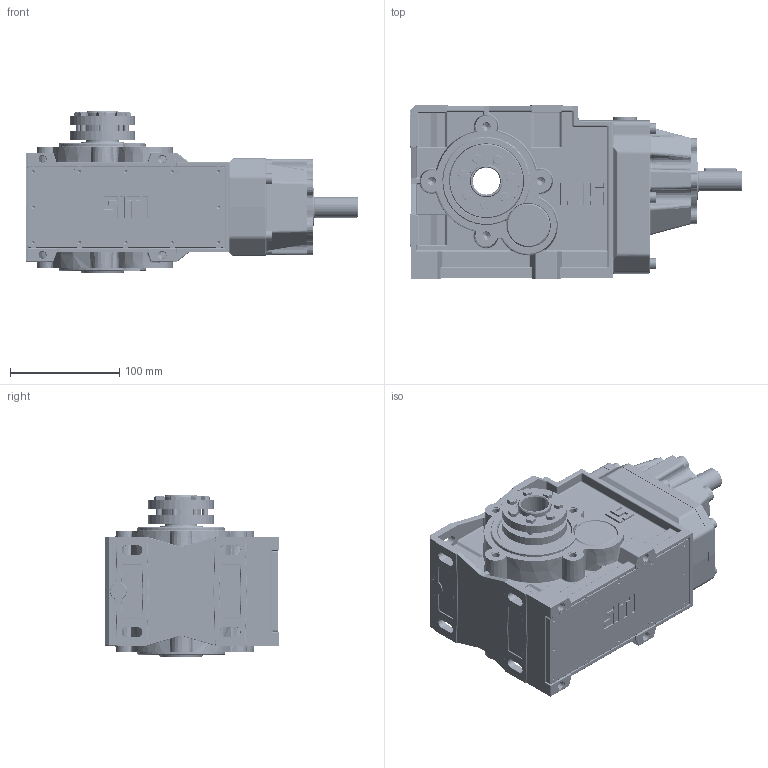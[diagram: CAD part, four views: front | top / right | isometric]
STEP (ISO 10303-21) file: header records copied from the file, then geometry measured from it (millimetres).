
FILE_DESCRIPTION((''),'2;1');
FILE_NAME('C:\Users\m.piscopiello.SITIRIDUTTORI\Desktop\3D x SITO\BH 56\BH_56 CC-A.stp','2013-04-19T10:29:09',('m.piscopiello'),(''),'Autodesk Inventor 2012','Autodesk Inventor 2012','');
FILE_SCHEMA(('CONFIG_CONTROL_DESIGN'));
Length unit declared in the file: millimetre
Products named in the file (1): BH_56 CC-A
Bounding box: 304.5 x 160 x 148 mm (x, y, z)
Volume: 1304573.8 mm3; surface area: 427939.5 mm2
Topology: 40 solids, 45 shells, 4200 faces, 10054 edges, 5840 vertices
Faces by surface type: cylinder 1371, plane 1099, bspline 792, torus 425, cone 330, sphere 183
Full cylindrical faces by diameter (mm): 3 x4, 3.242 x12, 4.2 x1, 4.3 x1, 4.917 x6, 5 x7, 5.3 x1, 6 x16, 6.647 x12, 7 x24, 8.7 x11, 10 x19, 11 x1, 19 x2, 19.4 x1, 19.97 x2, 23.5 x1, 25 x2, 26 x1, 30 x3, 33 x2, 34.4 x1, 35 x3, 36.875 x2, 37 x1, 39.4 x1, 40 x18, 41 x1, 42 x1, 42.5 x4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
Entity records: 139203 total; most frequent: CARTESIAN_POINT 44857, DIRECTION 18790, ORIENTED_EDGE 18216, EDGE_CURVE 9108, AXIS2_PLACEMENT_3D 7688, VERTEX_POINT 5588, EDGE_LOOP 4906, STYLED_ITEM 4203
